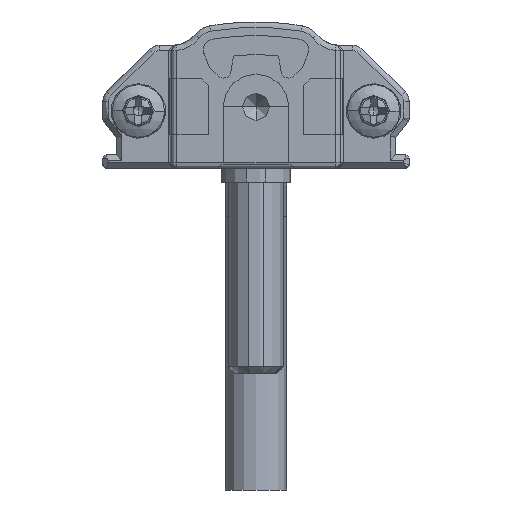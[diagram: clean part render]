
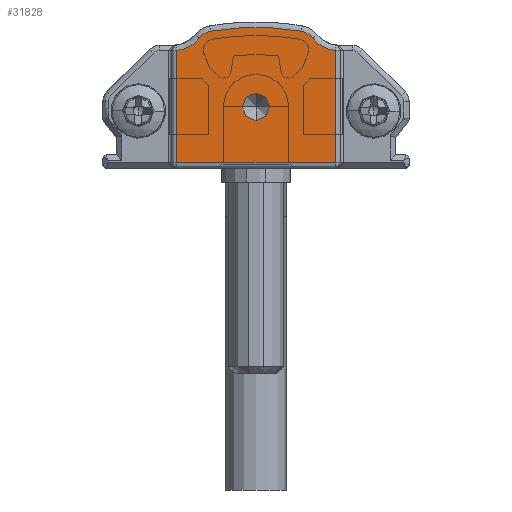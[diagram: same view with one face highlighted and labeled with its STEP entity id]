
A CAD part, front view. The second image highlights one B-rep face of the part: STEP entity #31828.
In plain terms, the highlighted planar face has unit normal (0, -1, 0).
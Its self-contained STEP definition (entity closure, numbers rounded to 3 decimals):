
#43 = CARTESIAN_POINT ( 'NONE',  ( 14.508, -15., 10.034 ) ) ;
#148 = CARTESIAN_POINT ( 'NONE',  ( 17., -15., 0.4 ) ) ;
#1378 = DIRECTION ( 'NONE',  ( 0., -1., 0. ) ) ;
#1382 = DIRECTION ( 'NONE',  ( 0., -1., 0. ) ) ;
#1445 = CARTESIAN_POINT ( 'NONE',  ( 17.238, -15., 11. ) ) ;
#1802 = CARTESIAN_POINT ( 'NONE',  ( 5.4, -15., 0.4 ) ) ;
#1922 = CARTESIAN_POINT ( 'NONE',  ( 11.2, -15., 3.5 ) ) ;
#1930 = DIRECTION ( 'NONE',  ( 0., -1., 0. ) ) ;
#2837 = LINE ( 'NONE', #148, #23313 ) ;
#3565 = DIRECTION ( 'NONE',  ( 0., 0., -1. ) ) ;
#3900 = DIRECTION ( 'NONE',  ( 0., 0., -1. ) ) ;
#4457 = ORIENTED_EDGE ( 'NONE', *, *, #22407, .T. ) ;
#4504 = EDGE_CURVE ( 'NONE', #30670, #22588, #21093, .T. ) ;
#5930 = AXIS2_PLACEMENT_3D ( 'NONE', #32160, #1930, #24716 ) ;
#6844 = CARTESIAN_POINT ( 'NONE',  ( 11.2, -15., -10.376 ) ) ;
#6852 = CIRCLE ( 'NONE', #24653, 20.676 ) ;
#7330 = ORIENTED_EDGE ( 'NONE', *, *, #24589, .F. ) ;
#7668 = VERTEX_POINT ( 'NONE', #18131 ) ;
#7675 = AXIS2_PLACEMENT_3D ( 'NONE', #12576, #18013, #28321 ) ;
#7704 = CARTESIAN_POINT ( 'NONE',  ( 5.4, -15., 8.612 ) ) ;
#8585 = CARTESIAN_POINT ( 'NONE',  ( 5.4, -15., 0.4 ) ) ;
#8641 = VECTOR ( 'NONE', #15648, 1000. ) ;
#9219 = AXIS2_PLACEMENT_3D ( 'NONE', #17004, #9731, #33241 ) ;
#9486 = EDGE_CURVE ( 'NONE', #13318, #15302, #6852, .T. ) ;
#9731 = DIRECTION ( 'NONE',  ( 0., 1., 0. ) ) ;
#9962 = VERTEX_POINT ( 'NONE', #15816 ) ;
#10273 = CARTESIAN_POINT ( 'NONE',  ( 17., -15., 0.4 ) ) ;
#11389 = EDGE_LOOP ( 'NONE', ( #16805, #7330 ) ) ;
#11477 = EDGE_CURVE ( 'NONE', #12613, #30670, #21109, .T. ) ;
#11872 = CIRCLE ( 'NONE', #25926, 2.4 ) ;
#12527 = CARTESIAN_POINT ( 'NONE',  ( 7.068, -15., 9.541 ) ) ;
#12576 = CARTESIAN_POINT ( 'NONE',  ( 11.2, -15., 4.5 ) ) ;
#12613 = VERTEX_POINT ( 'NONE', #12527 ) ;
#12703 = LINE ( 'NONE', #14191, #29542 ) ;
#12884 = DIRECTION ( 'NONE',  ( 0., -1., 0. ) ) ;
#13318 = VERTEX_POINT ( 'NONE', #43 ) ;
#14191 = CARTESIAN_POINT ( 'NONE',  ( 17., -15., 8.612 ) ) ;
#14482 = CARTESIAN_POINT ( 'NONE',  ( 7.892, -15., 10.034 ) ) ;
#14492 = FACE_OUTER_BOUND ( 'NONE', #20512, .T. ) ;
#14652 = CIRCLE ( 'NONE', #7675, 1. ) ;
#14925 = EDGE_CURVE ( 'NONE', #15830, #15597, #12703, .T. ) ;
#15302 = VERTEX_POINT ( 'NONE', #14482 ) ;
#15412 = CIRCLE ( 'NONE', #18690, 1.3 ) ;
#15541 = CIRCLE ( 'NONE', #32315, 1.3 ) ;
#15597 = VERTEX_POINT ( 'NONE', #28609 ) ;
#15648 = DIRECTION ( 'NONE',  ( 0., 0., -1. ) ) ;
#15816 = CARTESIAN_POINT ( 'NONE',  ( 11.2, -15., 5.5 ) ) ;
#15830 = VERTEX_POINT ( 'NONE', #10273 ) ;
#16534 = EDGE_CURVE ( 'NONE', #7668, #13318, #15541, .T. ) ;
#16710 = VERTEX_POINT ( 'NONE', #1922 ) ;
#16805 = ORIENTED_EDGE ( 'NONE', *, *, #26679, .F. ) ;
#16841 = ORIENTED_EDGE ( 'NONE', *, *, #28844, .T. ) ;
#17004 = CARTESIAN_POINT ( 'NONE',  ( 5.162, -15., 11. ) ) ;
#17438 = DIRECTION ( 'NONE',  ( 0., 0., -1. ) ) ;
#18013 = DIRECTION ( 'NONE',  ( 0., -1., 0. ) ) ;
#18131 = CARTESIAN_POINT ( 'NONE',  ( 15.332, -15., 9.541 ) ) ;
#18690 = AXIS2_PLACEMENT_3D ( 'NONE', #27019, #1382, #3565 ) ;
#19241 = CARTESIAN_POINT ( 'NONE',  ( 22.15, -15., 3.606 ) ) ;
#20479 = ORIENTED_EDGE ( 'NONE', *, *, #14925, .T. ) ;
#20487 = CIRCLE ( 'NONE', #5930, 1. ) ;
#20512 = EDGE_LOOP ( 'NONE', ( #20479, #27303, #26360, #29032, #16841, #21599, #26926, #4457 ) ) ;
#21033 = DIRECTION ( 'NONE',  ( 0., 0., -1. ) ) ;
#21093 = LINE ( 'NONE', #8585, #8641 ) ;
#21109 = CIRCLE ( 'NONE', #9219, 2.4 ) ;
#21599 = ORIENTED_EDGE ( 'NONE', *, *, #11477, .T. ) ;
#21707 = DIRECTION ( 'NONE',  ( 0., 0., -1. ) ) ;
#22407 = EDGE_CURVE ( 'NONE', #22588, #15830, #2837, .T. ) ;
#22588 = VERTEX_POINT ( 'NONE', #1802 ) ;
#23313 = VECTOR ( 'NONE', #23452, 1000. ) ;
#23452 = DIRECTION ( 'NONE',  ( 1., 0., 0. ) ) ;
#23885 = CARTESIAN_POINT ( 'NONE',  ( 14.3, -15., 8.75 ) ) ;
#24326 = PLANE ( 'NONE',  #30617 ) ;
#24589 = EDGE_CURVE ( 'NONE', #9962, #16710, #20487, .T. ) ;
#24653 = AXIS2_PLACEMENT_3D ( 'NONE', #6844, #29641, #17438 ) ;
#24716 = DIRECTION ( 'NONE',  ( 0., 0., -1. ) ) ;
#25757 = EDGE_CURVE ( 'NONE', #15597, #7668, #11872, .T. ) ;
#25926 = AXIS2_PLACEMENT_3D ( 'NONE', #1445, #29462, #21707 ) ;
#26360 = ORIENTED_EDGE ( 'NONE', *, *, #16534, .T. ) ;
#26679 = EDGE_CURVE ( 'NONE', #16710, #9962, #14652, .T. ) ;
#26926 = ORIENTED_EDGE ( 'NONE', *, *, #4504, .T. ) ;
#27019 = CARTESIAN_POINT ( 'NONE',  ( 8.1, -15., 8.75 ) ) ;
#27045 = DIRECTION ( 'NONE',  ( 0., 0., 1. ) ) ;
#27303 = ORIENTED_EDGE ( 'NONE', *, *, #25757, .T. ) ;
#28321 = DIRECTION ( 'NONE',  ( 0., 0., -1. ) ) ;
#28609 = CARTESIAN_POINT ( 'NONE',  ( 17., -15., 8.612 ) ) ;
#28844 = EDGE_CURVE ( 'NONE', #15302, #12613, #15412, .T. ) ;
#29032 = ORIENTED_EDGE ( 'NONE', *, *, #9486, .T. ) ;
#29462 = DIRECTION ( 'NONE',  ( 0., 1., 0. ) ) ;
#29542 = VECTOR ( 'NONE', #27045, 1000. ) ;
#29641 = DIRECTION ( 'NONE',  ( 0., -1., 0. ) ) ;
#29725 = FACE_BOUND ( 'NONE', #11389, .T. ) ;
#30617 = AXIS2_PLACEMENT_3D ( 'NONE', #19241, #1378, #3900 ) ;
#30670 = VERTEX_POINT ( 'NONE', #7704 ) ;
#31828 = ADVANCED_FACE ( 'NONE', ( #14492, #29725 ), #24326, .T. ) ;
#32160 = CARTESIAN_POINT ( 'NONE',  ( 11.2, -15., 4.5 ) ) ;
#32315 = AXIS2_PLACEMENT_3D ( 'NONE', #23885, #12884, #21033 ) ;
#33241 = DIRECTION ( 'NONE',  ( 0., 0., -1. ) ) ;
